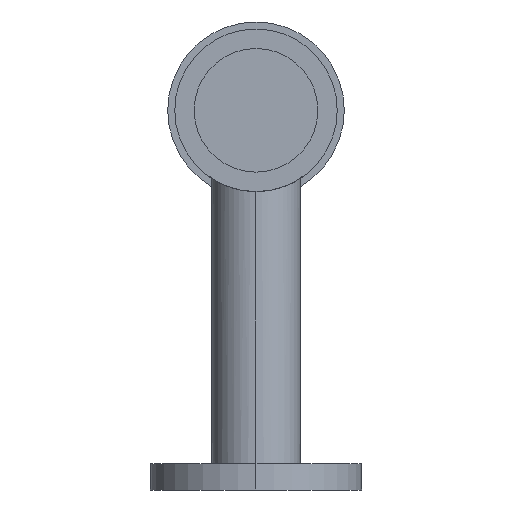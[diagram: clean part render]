
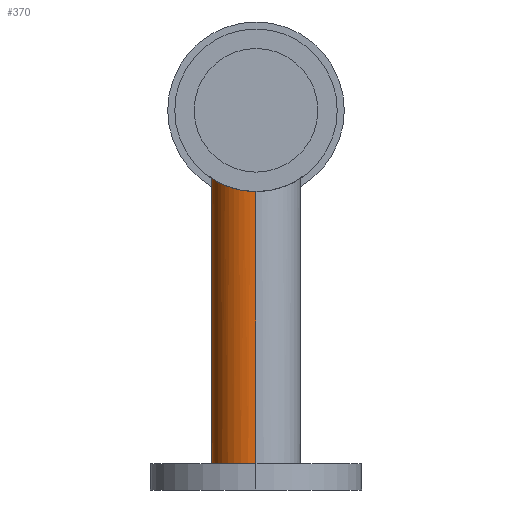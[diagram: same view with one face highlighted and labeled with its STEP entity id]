
A CAD part, left-side view. The second image highlights one B-rep face of the part: STEP entity #370.
In plain terms, the highlighted cylindrical face has radius 5 mm (diameter 10 mm), a partial arc.
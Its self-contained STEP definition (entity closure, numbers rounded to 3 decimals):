
#7 = CARTESIAN_POINT ( 'NONE',  ( -361.586, 4.959, -7.749 ) ) ;
#26 = CARTESIAN_POINT ( 'NONE',  ( -361.92, 4.992, -7.728 ) ) ;
#33 = CARTESIAN_POINT ( 'NONE',  ( -362.089, 5., -7.723 ) ) ;
#42 = CARTESIAN_POINT ( 'NONE',  ( -362.59, 5., -7.723 ) ) ;
#44 = CARTESIAN_POINT ( 'NONE',  ( -362.919, 4.966, -7.745 ) ) ;
#47 = VECTOR ( 'NONE', #621, 1000. ) ;
#66 = VERTEX_POINT ( 'NONE', #576 ) ;
#86 = CARTESIAN_POINT ( 'NONE',  ( -363.567, 4.835, -7.828 ) ) ;
#91 = CARTESIAN_POINT ( 'NONE',  ( -363.888, 4.735, -7.889 ) ) ;
#97 = CARTESIAN_POINT ( 'NONE',  ( -367.25, 0., -40. ) ) ;
#100 = CARTESIAN_POINT ( 'NONE',  ( -364.486, 4.484, -8.035 ) ) ;
#101 = LINE ( 'NONE', #822, #47 ) ;
#104 = EDGE_CURVE ( 'NONE', #165, #491, #175, .T. ) ;
#106 = CARTESIAN_POINT ( 'NONE',  ( -364.769, 4.331, -8.119 ) ) ;
#109 = CARTESIAN_POINT ( 'NONE',  ( -357.25, 0., -9.2 ) ) ;
#113 = CARTESIAN_POINT ( 'NONE',  ( -365.304, 3.972, -8.301 ) ) ;
#119 = CARTESIAN_POINT ( 'NONE',  ( -365.554, 3.766, -8.397 ) ) ;
#121 = CARTESIAN_POINT ( 'NONE',  ( -366.007, 3.315, -8.585 ) ) ;
#124 = CARTESIAN_POINT ( 'NONE',  ( -366.213, 3.066, -8.679 ) ) ;
#130 = CARTESIAN_POINT ( 'NONE',  ( -366.576, 2.528, -8.85 ) ) ;
#135 = CARTESIAN_POINT ( 'NONE',  ( -366.731, 2.242, -8.928 ) ) ;
#153 = VECTOR ( 'NONE', #532, 1000. ) ;
#158 = EDGE_CURVE ( 'NONE', #491, #177, #379, .T. ) ;
#164 = ORIENTED_EDGE ( 'NONE', *, *, #104, .T. ) ;
#165 = VERTEX_POINT ( 'NONE', #97 ) ;
#169 = CARTESIAN_POINT ( 'NONE',  ( -366.985, 1.639, -9.058 ) ) ;
#170 = CARTESIAN_POINT ( 'NONE',  ( -357.25, 0.334, -9.2 ) ) ;
#175 = LINE ( 'NONE', #460, #153 ) ;
#177 = VERTEX_POINT ( 'NONE', #185 ) ;
#181 = CARTESIAN_POINT ( 'NONE',  ( -367.085, 1.318, -9.111 ) ) ;
#185 = CARTESIAN_POINT ( 'NONE',  ( -357.25, 0., -9.2 ) ) ;
#187 = CARTESIAN_POINT ( 'NONE',  ( -357.283, 0.664, -9.182 ) ) ;
#188 = CARTESIAN_POINT ( 'NONE',  ( -367.25, 0., -9.2 ) ) ;
#206 = CARTESIAN_POINT ( 'NONE',  ( -367.25, 0.338, -9.2 ) ) ;
#210 = EDGE_CURVE ( 'NONE', #66, #177, #101, .T. ) ;
#235 = ORIENTED_EDGE ( 'NONE', *, *, #158, .T. ) ;
#249 = CARTESIAN_POINT ( 'NONE',  ( -367.216, 0.669, -9.181 ) ) ;
#250 = CARTESIAN_POINT ( 'NONE',  ( -357.382, 1.154, -9.129 ) ) ;
#296 = CIRCLE ( 'NONE', #933, 5. ) ;
#333 = DIRECTION ( 'NONE',  ( 0., 0., 1. ) ) ;
#358 = AXIS2_PLACEMENT_3D ( 'NONE', #473, #623, #481 ) ;
#370 = ADVANCED_FACE ( 'NONE', ( #722 ), #702, .T. ) ;
#379 = B_SPLINE_CURVE_WITH_KNOTS ( 'NONE', 3,
 ( #188, #206, #249, #181, #169, #135, #130, #124, #121, #119, #113, #106, #100, #91, #86, #44, #42, #33, #26, #7, #907, #898, #894, #685, #763, #760, #683, #470, #697, #694, #636, #612, #549, #476, #403, #464, #250, #187, #170, #109 ),
 .UNSPECIFIED., .F., .F.,
 ( 4, 2, 2, 2, 2, 2, 2, 2, 2, 2, 2, 2, 2, 2, 2, 2, 2, 2, 2, 4 ),
 ( 0., 0.001, 0.002, 0.003, 0.004, 0.005, 0.006, 0.007, 0.008, 0.008, 0.009, 0.009, 0.01, 0.011, 0.012, 0.013, 0.014, 0.014, 0.015, 0.016 ),
 .UNSPECIFIED. ) ;
#403 = CARTESIAN_POINT ( 'NONE',  ( -357.521, 1.634, -9.055 ) ) ;
#438 = CARTESIAN_POINT ( 'NONE',  ( -367.25, 0., -9.2 ) ) ;
#460 = CARTESIAN_POINT ( 'NONE',  ( -367.25, 0., -40. ) ) ;
#464 = CARTESIAN_POINT ( 'NONE',  ( -357.424, 1.317, -9.107 ) ) ;
#470 = CARTESIAN_POINT ( 'NONE',  ( -359.192, 3.969, -8.302 ) ) ;
#473 = CARTESIAN_POINT ( 'NONE',  ( -362.25, 0., -40. ) ) ;
#476 = CARTESIAN_POINT ( 'NONE',  ( -357.578, 1.788, -9.026 ) ) ;
#481 = DIRECTION ( 'NONE',  ( 1., 0., 0. ) ) ;
#491 = VERTEX_POINT ( 'NONE', #438 ) ;
#532 = DIRECTION ( 'NONE',  ( 0., 0., 1. ) ) ;
#549 = CARTESIAN_POINT ( 'NONE',  ( -357.767, 2.238, -8.929 ) ) ;
#576 = CARTESIAN_POINT ( 'NONE',  ( -357.25, 0., -40. ) ) ;
#612 = CARTESIAN_POINT ( 'NONE',  ( -357.921, 2.523, -8.852 ) ) ;
#621 = DIRECTION ( 'NONE',  ( 0., 0., 1. ) ) ;
#623 = DIRECTION ( 'NONE',  ( 0., 0., 1. ) ) ;
#636 = CARTESIAN_POINT ( 'NONE',  ( -358.285, 3.063, -8.68 ) ) ;
#683 = CARTESIAN_POINT ( 'NONE',  ( -359.729, 4.33, -8.12 ) ) ;
#685 = CARTESIAN_POINT ( 'NONE',  ( -360.622, 4.73, -7.891 ) ) ;
#694 = CARTESIAN_POINT ( 'NONE',  ( -358.49, 3.311, -8.587 ) ) ;
#697 = CARTESIAN_POINT ( 'NONE',  ( -358.943, 3.763, -8.399 ) ) ;
#702 = CYLINDRICAL_SURFACE ( 'NONE', #358, 5. ) ;
#722 = FACE_OUTER_BOUND ( 'NONE', #723, .T. ) ;
#723 = EDGE_LOOP ( 'NONE', ( #751, #164, #235, #811 ) ) ;
#729 = EDGE_CURVE ( 'NONE', #66, #165, #296, .T. ) ;
#751 = ORIENTED_EDGE ( 'NONE', *, *, #729, .T. ) ;
#759 = CARTESIAN_POINT ( 'NONE',  ( -362.25, 0., -40. ) ) ;
#760 = CARTESIAN_POINT ( 'NONE',  ( -360.013, 4.484, -8.035 ) ) ;
#763 = CARTESIAN_POINT ( 'NONE',  ( -360.466, 4.674, -7.925 ) ) ;
#811 = ORIENTED_EDGE ( 'NONE', *, *, #210, .F. ) ;
#822 = CARTESIAN_POINT ( 'NONE',  ( -357.25, 0., -40. ) ) ;
#835 = DIRECTION ( 'NONE',  ( -1., 0., 0. ) ) ;
#894 = CARTESIAN_POINT ( 'NONE',  ( -360.938, 4.828, -7.832 ) ) ;
#898 = CARTESIAN_POINT ( 'NONE',  ( -361.098, 4.868, -7.807 ) ) ;
#907 = CARTESIAN_POINT ( 'NONE',  ( -361.422, 4.934, -7.765 ) ) ;
#933 = AXIS2_PLACEMENT_3D ( 'NONE', #759, #333, #835 ) ;
